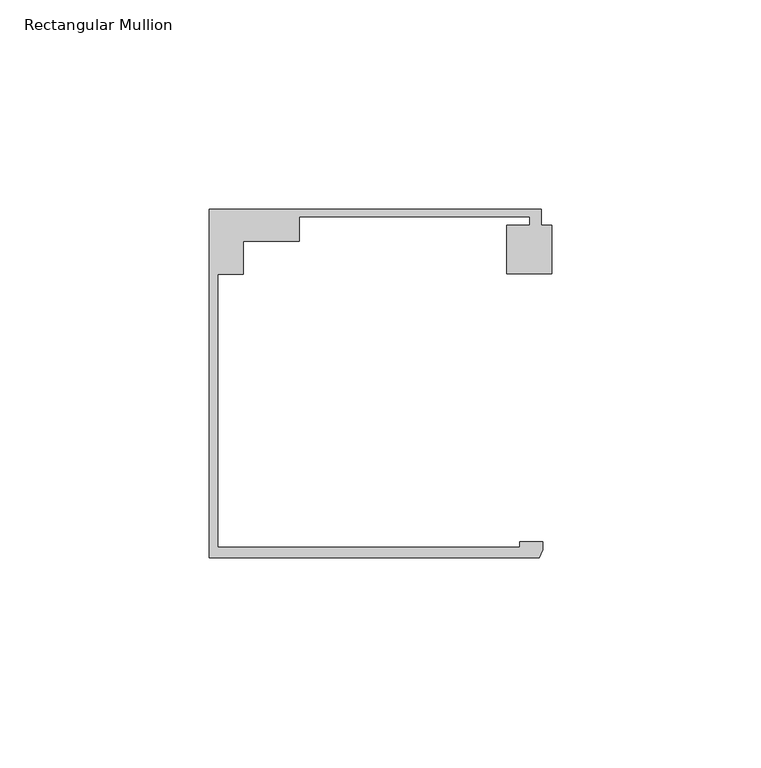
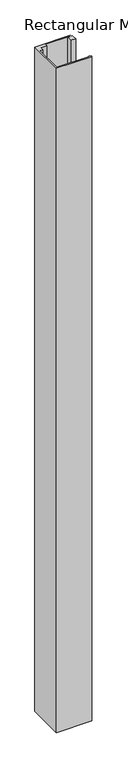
"""IFC4 building model written with IfcOpenShell, lengths in millimetres: member geometry, Rectangular Mullion : Danpal_Airpt_End-Mullion_B1."""

from ifc_helpers import new_model, si_unit, frame, origin, place, context, project, spatial, polyline, outline, extrude, source, transform, mapped, element, save


def rectangular_mullion_8fb4c4e3(model_context):
    return source(origin(), model_context, "Body", "SweptSolid", [
        extrude(outline(polyline([(24.3058808, -74.9940824), (24.3058808, -73.6940824), (29.8368746, -73.6940824), (29.8368746, -75.5472671), (28.9099149, -77.4940825), (-49.941586, -77.4940825), (-49.941586, 5.8051514), (29.4059014, 5.8051514), (29.4059014, 2.0051513), (31.9176464, 2.0051513), (31.9176464, -9.6875514), (21.2017673, -9.6875514), (21.2017673, 2.0051513), (26.7062306, 2.0051513), (26.7062306, 4.0051512), (-28.3937694, 4.0051512), (-28.3937694, -1.8818054), (-41.841586, -1.8818054), (-41.841586, -9.7188964), (-47.9415858, -9.7188964), (-47.9415858, -74.9940824), (24.3058808, -74.9940824)])), frame((0.0, 0.0, -1571.7815629), z_axis=(0.0, 0.0, 1.0), x_axis=(1.0, 0.0, 0.0)), (0.0, 0.0, 1.0), 1571.7815629),
    ])


if __name__ == "__main__":
    model = new_model("IFC4")
    model_context = context("Model", 3, world=origin())
    ifc_project = project(units=[si_unit("LENGTHUNIT", "METRE", prefix="MILLI")], contexts=[model_context])
    site = spatial("IfcSite", under=ifc_project)
    building = spatial("IfcBuilding", under=site)
    placement = place(None, origin())
    rectangular_mullion_shape = rectangular_mullion_8fb4c4e3(model_context)
    element("IfcMember", 1, ObjectType="Rectangular Mullion : Danpal_Airpt_End-Mullion_B1", at=placement, inside=building, context=model_context, shape_type="MappedRepresentation", body=[
        mapped(rectangular_mullion_shape, transform((0.0, 0.0, 0.0), x_axis=(1.0, 0.0, 0.0), y_axis=(0.0, 1.0, 0.0), z_axis=(0.0, 0.0, 1.0))),
    ])
    save(model, "model.ifc")
